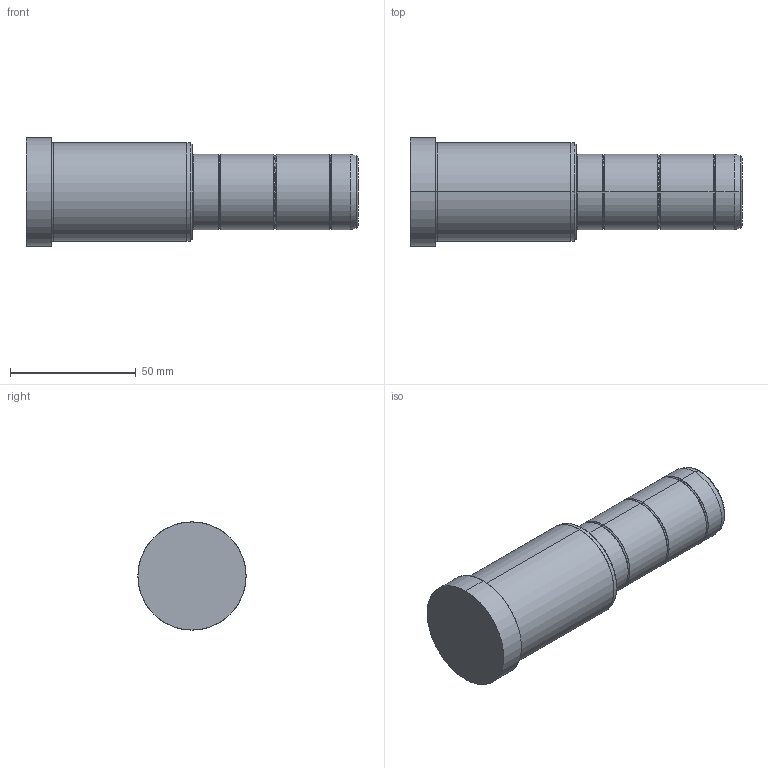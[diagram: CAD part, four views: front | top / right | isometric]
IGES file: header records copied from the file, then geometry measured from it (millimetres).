
Start section: SolidWorks IGES file using analytic representation for surfaces
Global section: file name: C:\Documents and Settings\kalite-mail\Desktop\IGS\D02\30\D02 - 30x66x66.IGS; native system: SolidWorks 2008; preprocessor: SolidWorks 2008; author: kalite-mail; date: 080617.092228; units: millimetre
Bounding box: 132 x 43 x 43 mm (x, y, z)
Surface area: 17346.3 mm2 (no closed solid volume)
Topology: 0 solids, 0 shells, 42 faces, 752 edges, 752 vertices
Faces by surface type: bspline 22, revolution 20
